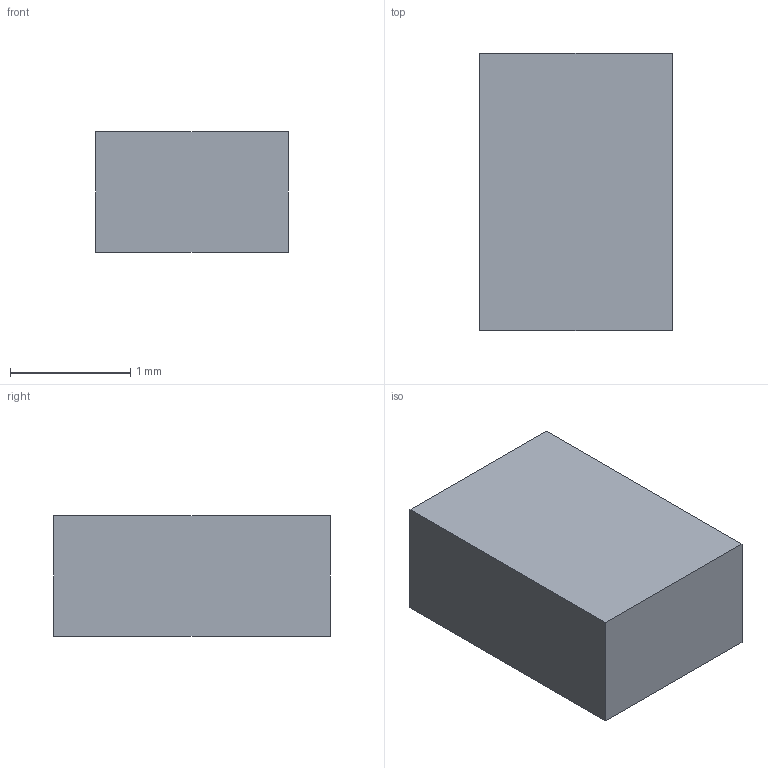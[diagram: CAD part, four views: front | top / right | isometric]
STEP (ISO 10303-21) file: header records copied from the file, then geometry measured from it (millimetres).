
FILE_DESCRIPTION(/* description */ ('STEP AP242 Edition 2','CAx-IF Rec.Pracs.---Representation and Presentation of Product Manufacturing Information (PMI)---4.0---2014-10-13','CAx-IF Rec.Pracs.---3D Tessellated Geometry---0.4---2014-09-14','2;1','CAx-IF Rec.Pracs.---User Defined Attributes---1.5---2016-08-15'),/* implementation_level */ '2;1');
FILE_NAME(/* name */ 'Drone Layout - Surface 256',/* time_stamp */ '2026-10-04T22:22:54Z',/* author */ (''),/* organization */ (''),/* preprocessor_version */ 'ST-DEVELOPER v20',/* originating_system */ 'ONSHAPE BY PTC INC, 1.221',/* authorisation */ ' ');
FILE_SCHEMA (('AP242_MANAGED_MODEL_BASED_3D_ENGINEERING_MIM_LF { 1 0 10303 442 3 1 4 }'));
Length unit declared in the file: metre
Products named in the file (1): diode:1__diode
Bounding box: 1.6 x 2.3 x 1 mm (x, y, z)
Volume: 3.7 mm3; surface area: 15.2 mm2
Topology: 1 solids, 1 shells, 6 faces, 12 edges, 8 vertices
Faces by surface type: plane 6
Entity records: 169 total; most frequent: CARTESIAN_POINT 27, DIRECTION 26, ORIENTED_EDGE 24, EDGE_CURVE 12, LINE 12, VECTOR 12, VERTEX_POINT 8, AXIS2_PLACEMENT_3D 7
